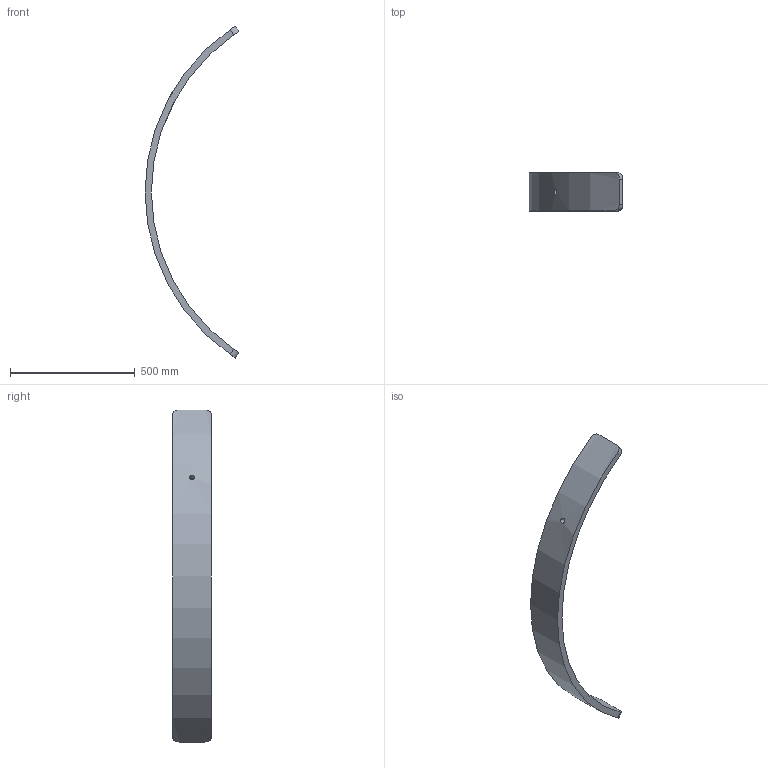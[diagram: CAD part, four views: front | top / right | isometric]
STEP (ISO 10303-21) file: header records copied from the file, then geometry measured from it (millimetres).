
FILE_DESCRIPTION (( 'STEP AP214' ), '1' );
FILE_NAME ('Section 2 AR.STEP', '2025-01-09T19:43:26', ( '' ), ( '' ), 'SwSTEP 2.0', 'SolidWorks 2024', '' );
FILE_SCHEMA (( 'AUTOMOTIVE_DESIGN' ));
Length unit declared in the file: inch
Products named in the file (1): Section 2 AR
Bounding box: 375.67 x 152.4 x 1328.93 mm (x, y, z)
Volume: 5988057.7 mm3; surface area: 558551.1 mm2
Topology: 1 solids, 1 shells, 11 faces, 27 edges, 18 vertices
Faces by surface type: cylinder 7, plane 4
Full cylindrical faces by diameter (mm): 19.431 x1
Entity records: 745 total; most frequent: CARTESIAN_POINT 470, ORIENTED_EDGE 52, DIRECTION 44, EDGE_CURVE 26, VERTEX_POINT 18, AXIS2_PLACEMENT_3D 16, EDGE_LOOP 14, FACE_OUTER_BOUND 12
